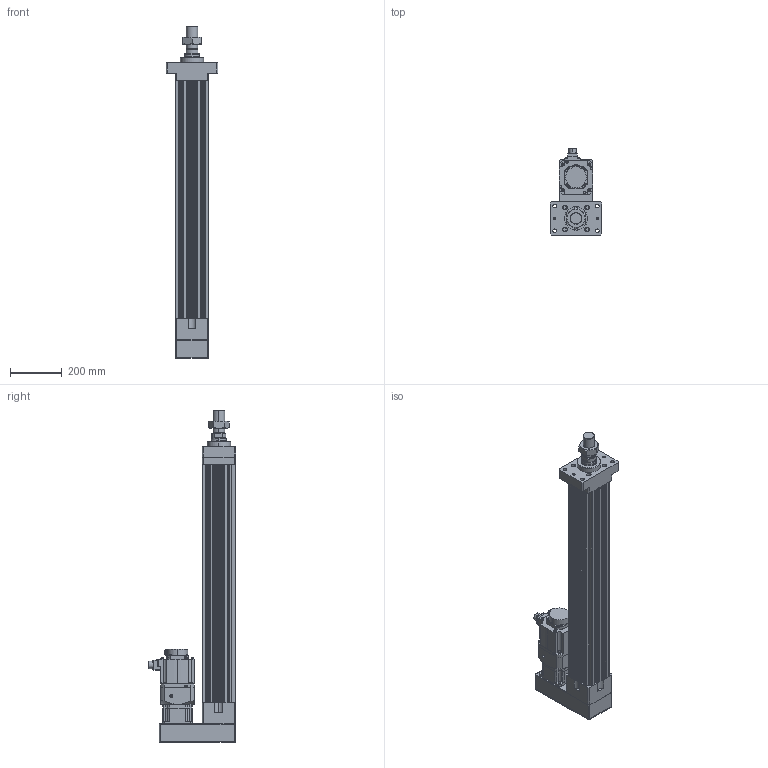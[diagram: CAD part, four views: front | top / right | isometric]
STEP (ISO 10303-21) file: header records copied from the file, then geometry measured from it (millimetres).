
FILE_DESCRIPTION (( 'STEP AP203' ), '1' );
FILE_NAME ('HES130NS(FS)(HS)-P700-W015G00-M-FMA.STEP', '2023-01-29T05:00:08', ( 'tms' ), ( '' ), 'SwSTEP 2.0', 'SolidWorks 2013', '' );
FILE_SCHEMA (( 'CONFIG_CONTROL_DESIGN' ));
Length unit declared in the file: millimetre
Products named in the file (8): AB115-003[HG-SR152]; HES130 ROD M ST700; P0401400706; AB1151; HG-SR152; HES130-P700-G120-FMA; HES130NS(FS)(HS)-P700-W015G00-M-FMA; M45X1.5P
Assembly tree (7 placements, depth 3):
  HES130NS(FS)(HS)-P700-W015G00-M-FMA
    HES130-P700-G120-FMA
    HES130 ROD M ST700
    M45X1.5P
    AB115-003[HG-SR152]
      AB1151
      P0401400706
    HG-SR152
Bounding box: 200 x 337.49 x 1282 mm (x, y, z)
Volume: 14051813.1 mm3; surface area: 1734295.2 mm2
Topology: 4 solids, 11 shells, 1082 faces, 2768 edges, 1799 vertices
Faces by surface type: cylinder 513, plane 489, cone 68, bspline 8, torus 4
Entity records: 34626 total; most frequent: CARTESIAN_POINT 6632, DIRECTION 5993, ORIENTED_EDGE 5484, EDGE_CURVE 2752, AXIS2_PLACEMENT_3D 2228, VERTEX_POINT 1799, VECTOR 1537, LINE 1537
